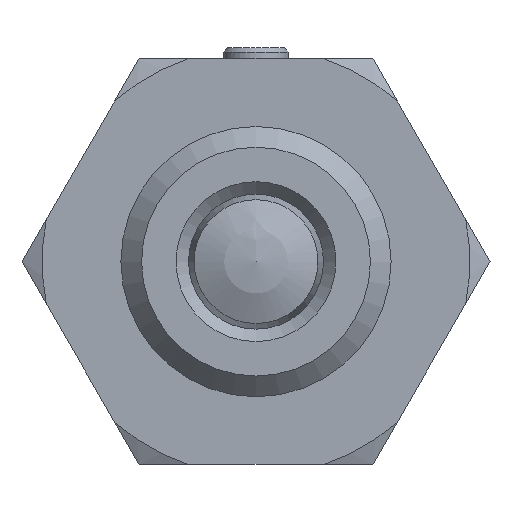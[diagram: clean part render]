
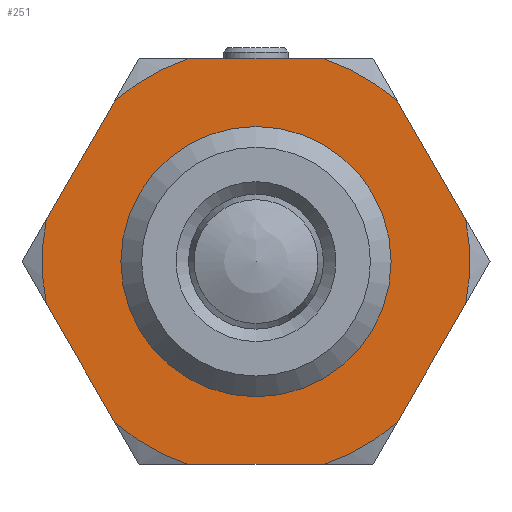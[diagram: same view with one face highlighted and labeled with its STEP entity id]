
A CAD part, left-side view. The second image highlights one B-rep face of the part: STEP entity #251.
In plain terms, the highlighted planar face has unit normal (-1, 0, 0) as drawn and (1, 0, 0) by its records, which use the part's own axes.
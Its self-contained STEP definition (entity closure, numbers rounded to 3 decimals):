
#251 = ADVANCED_FACE( '', ( #396, #397 ), #398, .F. );
#396 = FACE_BOUND( '', #561, .T. );
#397 = FACE_OUTER_BOUND( '', #562, .T. );
#398 = PLANE( '', #563 );
#561 = EDGE_LOOP( '', ( #872 ) );
#562 = EDGE_LOOP( '', ( #873, #874, #875, #876, #877, #878, #879, #880, #881, #882, #883, #884 ) );
#563 = AXIS2_PLACEMENT_3D( '', #885, #886, #887 );
#872 = ORIENTED_EDGE( '', *, *, #1075, .F. );
#873 = ORIENTED_EDGE( '', *, *, #1076, .T. );
#874 = ORIENTED_EDGE( '', *, *, #1077, .T. );
#875 = ORIENTED_EDGE( '', *, *, #1046, .T. );
#876 = ORIENTED_EDGE( '', *, *, #1078, .T. );
#877 = ORIENTED_EDGE( '', *, *, #1039, .T. );
#878 = ORIENTED_EDGE( '', *, *, #1079, .T. );
#879 = ORIENTED_EDGE( '', *, *, #1069, .T. );
#880 = ORIENTED_EDGE( '', *, *, #1054, .T. );
#881 = ORIENTED_EDGE( '', *, *, #1064, .T. );
#882 = ORIENTED_EDGE( '', *, *, #1080, .T. );
#883 = ORIENTED_EDGE( '', *, *, #1057, .T. );
#884 = ORIENTED_EDGE( '', *, *, #1081, .T. );
#885 = CARTESIAN_POINT( '', ( 6., 9.5, 0. ) );
#886 = DIRECTION( '', ( -1., 0., 0. ) );
#887 = DIRECTION( '', ( 0., 0., 1. ) );
#1039 = EDGE_CURVE( '', #1188, #1186, #1189, .T. );
#1046 = EDGE_CURVE( '', #1201, #1199, #1202, .T. );
#1054 = EDGE_CURVE( '', #1212, #1215, #1217, .T. );
#1057 = EDGE_CURVE( '', #1223, #1221, #1224, .T. );
#1064 = EDGE_CURVE( '', #1215, #1234, #1236, .T. );
#1069 = EDGE_CURVE( '', #1244, #1212, #1245, .T. );
#1075 = EDGE_CURVE( '', #1253, #1253, #1254, .T. );
#1076 = EDGE_CURVE( '', #1255, #1256, #1257, .T. );
#1077 = EDGE_CURVE( '', #1256, #1201, #1258, .T. );
#1078 = EDGE_CURVE( '', #1199, #1188, #1259, .T. );
#1079 = EDGE_CURVE( '', #1186, #1244, #1260, .T. );
#1080 = EDGE_CURVE( '', #1234, #1223, #1261, .T. );
#1081 = EDGE_CURVE( '', #1221, #1255, #1262, .T. );
#1186 = VERTEX_POINT( '', #1681 );
#1188 = VERTEX_POINT( '', #1686 );
#1189 = LINE( '', #1687, #1688 );
#1199 = VERTEX_POINT( '', #1709 );
#1201 = VERTEX_POINT( '', #1714 );
#1202 = LINE( '', #1715, #1716 );
#1212 = VERTEX_POINT( '', #1737 );
#1215 = VERTEX_POINT( '', #1743 );
#1217 = CIRCLE( '', #1748, 9.5 );
#1221 = VERTEX_POINT( '', #1753 );
#1223 = VERTEX_POINT( '', #1758 );
#1224 = LINE( '', #1759, #1760 );
#1234 = VERTEX_POINT( '', #1781 );
#1236 = LINE( '', #1786, #1787 );
#1244 = VERTEX_POINT( '', #1803 );
#1245 = LINE( '', #1804, #1805 );
#1253 = VERTEX_POINT( '', #1823 );
#1254 = CIRCLE( '', #1824, 6. );
#1255 = VERTEX_POINT( '', #1825 );
#1256 = VERTEX_POINT( '', #1826 );
#1257 = LINE( '', #1827, #1828 );
#1258 = CIRCLE( '', #1829, 9.5 );
#1259 = CIRCLE( '', #1830, 9.5 );
#1260 = CIRCLE( '', #1831, 9.5 );
#1261 = CIRCLE( '', #1832, 9.5 );
#1262 = CIRCLE( '', #1833, 9.5 );
#1681 = CARTESIAN_POINT( '', ( 6., -3.041, 9. ) );
#1686 = CARTESIAN_POINT( '', ( 6., 3.041, 9. ) );
#1687 = CARTESIAN_POINT( '', ( 6., 9.5, 9. ) );
#1688 = VECTOR( '', #1970, 1000. );
#1709 = CARTESIAN_POINT( '', ( 6., 6.274, 7.134 ) );
#1714 = CARTESIAN_POINT( '', ( 6., 9.315, 1.866 ) );
#1715 = CARTESIAN_POINT( '', ( 6., 10.169, 0.386 ) );
#1716 = VECTOR( '', #1973, 1000. );
#1737 = CARTESIAN_POINT( '', ( 6., -9.315, 1.866 ) );
#1743 = CARTESIAN_POINT( '', ( 6., -9.315, -1.866 ) );
#1748 = AXIS2_PLACEMENT_3D( '', #1976, #1977, #1978 );
#1753 = CARTESIAN_POINT( '', ( 6., 3.041, -9. ) );
#1758 = CARTESIAN_POINT( '', ( 6., -3.041, -9. ) );
#1759 = CARTESIAN_POINT( '', ( 6., 9.5, -9. ) );
#1760 = VECTOR( '', #1980, 1000. );
#1781 = CARTESIAN_POINT( '', ( 6., -6.274, -7.134 ) );
#1786 = CARTESIAN_POINT( '', ( 6., -5.419, -8.614 ) );
#1787 = VECTOR( '', #1983, 1000. );
#1803 = CARTESIAN_POINT( '', ( 6., -6.274, 7.134 ) );
#1804 = CARTESIAN_POINT( '', ( 6., -5.419, 8.614 ) );
#1805 = VECTOR( '', #1986, 1000. );
#1823 = CARTESIAN_POINT( '', ( 6., 0., -6. ) );
#1824 = AXIS2_PLACEMENT_3D( '', #1991, #1992, #1993 );
#1825 = CARTESIAN_POINT( '', ( 6., 6.274, -7.134 ) );
#1826 = CARTESIAN_POINT( '', ( 6., 9.315, -1.866 ) );
#1827 = CARTESIAN_POINT( '', ( 6., 10.169, -0.386 ) );
#1828 = VECTOR( '', #1994, 1000. );
#1829 = AXIS2_PLACEMENT_3D( '', #1995, #1996, #1997 );
#1830 = AXIS2_PLACEMENT_3D( '', #1998, #1999, #2000 );
#1831 = AXIS2_PLACEMENT_3D( '', #2001, #2002, #2003 );
#1832 = AXIS2_PLACEMENT_3D( '', #2004, #2005, #2006 );
#1833 = AXIS2_PLACEMENT_3D( '', #2007, #2008, #2009 );
#1970 = DIRECTION( '', ( 0., -1., 0. ) );
#1973 = DIRECTION( '', ( 0., -0.5, 0.866 ) );
#1976 = CARTESIAN_POINT( '', ( 6., 0., 0. ) );
#1977 = DIRECTION( '', ( 1., 0., 0. ) );
#1978 = DIRECTION( '', ( 0., 0., -1. ) );
#1980 = DIRECTION( '', ( 0., 1., 0. ) );
#1983 = DIRECTION( '', ( 0., 0.5, -0.866 ) );
#1986 = DIRECTION( '', ( 0., -0.5, -0.866 ) );
#1991 = CARTESIAN_POINT( '', ( 6., 0., 0. ) );
#1992 = DIRECTION( '', ( 1., 0., 0. ) );
#1993 = DIRECTION( '', ( 0., 0., -1. ) );
#1994 = DIRECTION( '', ( 0., 0.5, 0.866 ) );
#1995 = CARTESIAN_POINT( '', ( 6., 0., 0. ) );
#1996 = DIRECTION( '', ( 1., 0., 0. ) );
#1997 = DIRECTION( '', ( 0., 0., -1. ) );
#1998 = CARTESIAN_POINT( '', ( 6., 0., 0. ) );
#1999 = DIRECTION( '', ( 1., 0., 0. ) );
#2000 = DIRECTION( '', ( 0., 0., -1. ) );
#2001 = CARTESIAN_POINT( '', ( 6., 0., 0. ) );
#2002 = DIRECTION( '', ( 1., 0., 0. ) );
#2003 = DIRECTION( '', ( 0., 0., -1. ) );
#2004 = CARTESIAN_POINT( '', ( 6., 0., 0. ) );
#2005 = DIRECTION( '', ( 1., 0., 0. ) );
#2006 = DIRECTION( '', ( 0., 0., -1. ) );
#2007 = CARTESIAN_POINT( '', ( 6., 0., 0. ) );
#2008 = DIRECTION( '', ( 1., 0., 0. ) );
#2009 = DIRECTION( '', ( 0., 0., -1. ) );
